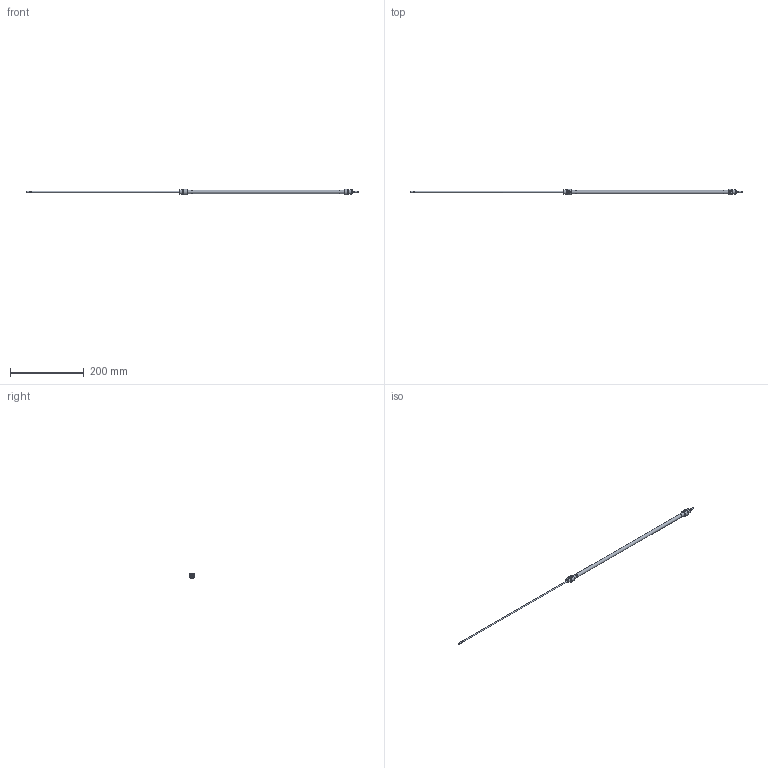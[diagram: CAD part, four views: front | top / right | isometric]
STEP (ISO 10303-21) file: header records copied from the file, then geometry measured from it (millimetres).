
FILE_DESCRIPTION( ( 'STEP AP203' ), '1' );
FILE_NAME( '//expscmdclustefs.cadenas.external/client_exchange/iodir/jobs/output/wkb68263303_no0/STEP/M101-08-0400--__0__2_03.stp', ' ', ( ' ' ), ( ' ' ), 'PSStep 15.0.47', 'PARTsolutions', ' ' );
FILE_SCHEMA( ( 'CONFIG_CONTROL_DESIGN' ) );
Length unit declared in the file: millimetre
Products named in the file (3): M101-08-0400-- [0]; HI_M101-08-0400---[0]-z; HI_M101-08-0400---[0]-k
Assembly tree (2 placements, depth 2):
  M101-08-0400-- [0]
    HI_M101-08-0400---[0]-z
    HI_M101-08-0400---[0]-k
Bounding box: 902 x 15.98 x 14.97 mm (x, y, z)
Volume: 25570.2 mm3; surface area: 37595.5 mm2
Topology: 2 solids, 2 shells, 71 faces, 145 edges, 88 vertices
Faces by surface type: plane 32, cylinder 23, cone 14, torus 2
Full cylindrical faces by diameter (mm): 3.141 x2, 4 x6, 4.134 x2, 8 x2, 9.3 x1, 10.466 x4, 12 x4
Entity records: 1832 total; most frequent: CARTESIAN_POINT 352, DIRECTION 312, ORIENTED_EDGE 212, AXIS2_PLACEMENT_3D 140, EDGE_LOOP 120, EDGE_CURVE 106, FACE_OUTER_BOUND 94, VERTEX_POINT 82
